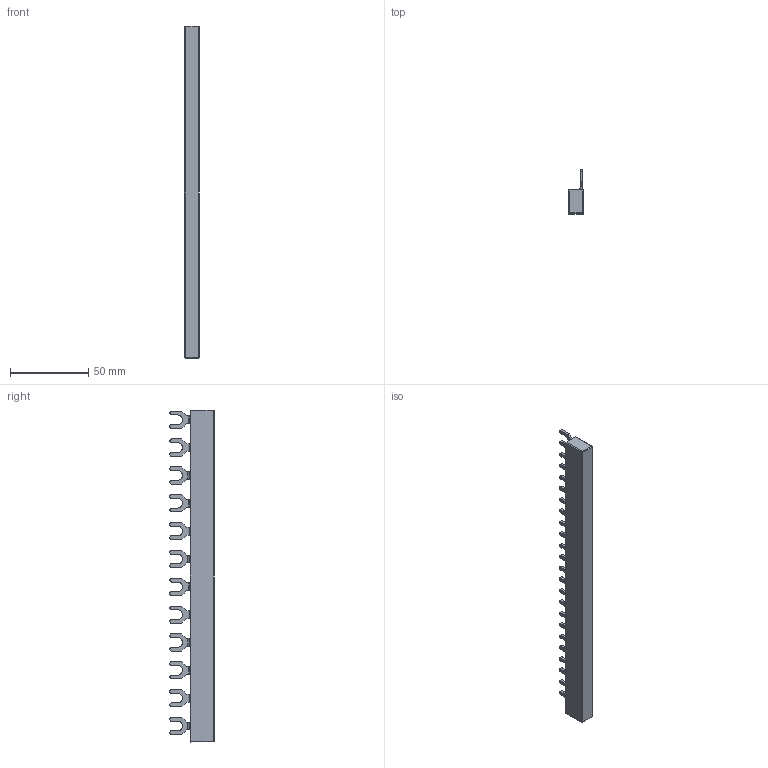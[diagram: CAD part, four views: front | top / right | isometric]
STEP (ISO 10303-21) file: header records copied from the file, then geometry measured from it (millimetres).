
FILE_DESCRIPTION(/* description */ (''),/* implementation_level */ '2;1');
FILE_NAME(/* name */ 'C:\Users\A.Reis\Desktop\PDF-Store\STP-793-023-00.stp',/* time_stamp */ '2018-10-23T10:32:30+02:00',/* author */ ('A.Robertus'),/* organization */ ('FTG Friedrich Goehringer Elektrotechnik GmbH'),/* preprocessor_version */ 'ST-DEVELOPER v16.1',/* originating_system */ 'Autodesk Inventor 2016',/* authorisation */ '');
FILE_SCHEMA (('AUTOMOTIVE_DESIGN { 1 0 10303 214 3 1 1 }'));
Length unit declared in the file: millimetre
Products named in the file (1): 793-023-00
Bounding box: 9.5 x 28.2 x 212.27 mm (x, y, z)
Volume: 31390.7 mm3; surface area: 13102 mm2
Topology: 1 solids, 1 shells, 270 faces, 760 edges, 500 vertices
Faces by surface type: plane 162, cylinder 104, sphere 4
Entity records: 9000 total; most frequent: CARTESIAN_POINT 1527, ORIENTED_EDGE 1512, DIRECTION 1506, EDGE_CURVE 756, LINE 548, VECTOR 548, VERTEX_POINT 500, AXIS2_PLACEMENT_3D 479
